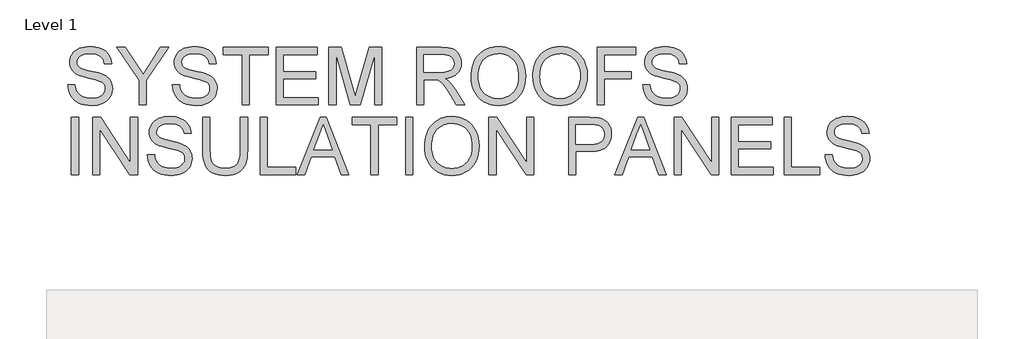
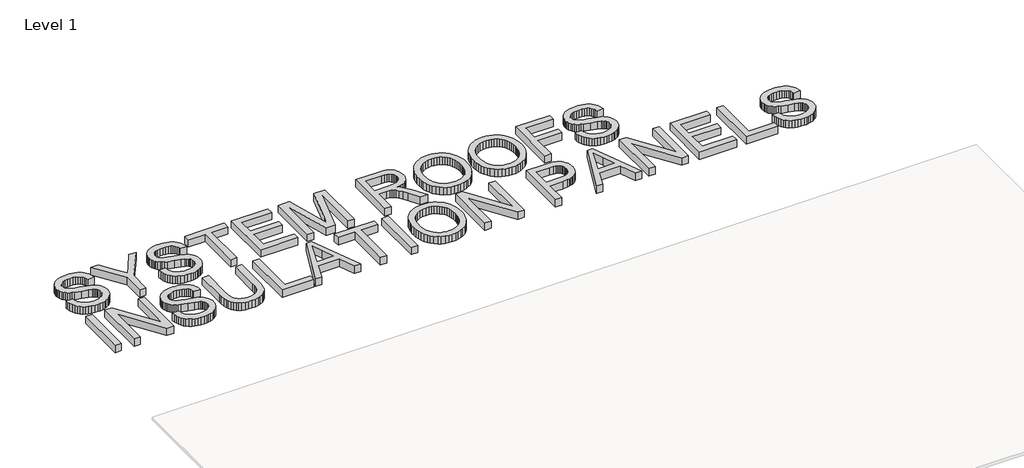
# One storey, part 22 of 27: 1 proxy.
"""IFC4 building model written with IfcOpenShell, lengths in millimetres."""

from ifc_helpers import new_model, si_unit, origin, origin_with_axes, place, context, project, spatial, polyline, outline, extrude, element, save

model = new_model("IFC4")

# Units and contexts
model_context = context("Model", 3, world=origin())
ifc_project = project(units=[si_unit("LENGTHUNIT", "METRE", prefix="MILLI")], contexts=[model_context])

# Site, building, storey
site = spatial("IfcSite", under=ifc_project)
building = spatial("IfcBuilding", under=site)
storey = spatial("IfcBuildingStorey", under=building, Name="Level 1", Elevation=0.0)

# Proxy
placement = place(None, origin())
element("IfcBuildingElementProxy", 1, Name="1000mm Arial", ObjectType="1000mm Arial", at=placement, inside=storey, context=model_context, shape_type="SweptSolid", body=[
    extrude(outline(polyline([(26521.9146034, -20660.7681426), (26644.3388458, -20660.7681426), (26649.9429829, -20696.4029822), (26658.3865494, -20728.7052283), (26669.6695454, -20757.6748808), (26683.7919708, -20783.3119399), (26701.4711552, -20806.1319861), (26723.4244282, -20826.6505999), (26749.6517897, -20844.8677815), (26780.1532397, -20860.7835308), (26813.8079509, -20873.7029348), (26849.4950958, -20882.9310805), (26887.2146744, -20888.467968), (26926.9666867, -20890.3135971), (26995.172771, -20884.7244044), (27026.0926633, -20877.7379135), (27054.8904556, -20867.9568263), (27080.8562908, -20855.7323353), (27103.2803112, -20841.4156331), (27122.1625171, -20825.0067197), (27137.5029083, -20806.5055952), (27149.3762067, -20786.7117831), (27157.8571341, -20766.4248069), (27162.9456906, -20745.6446666), (27164.6418761, -20724.3713622), (27159.5607918, -20683.393912), (27144.317539, -20647.9757657), (27131.4952734, -20632.2617653), (27113.3528136, -20617.7582586), (27089.8901597, -20604.4652454), (27061.1073117, -20592.3827259), (26996.4579864, -20573.1642718), (26882.8509197, -20545.6367505), (26765.8365376, -20514.7019139), (26723.1330131, -20499.7949092), (26690.9652663, -20485.2615138), (26658.2744667, -20465.7591167), (26630.0221436, -20444.0748424), (26606.2082971, -20420.2086906), (26586.8329272, -20394.1606615), (26571.8213121, -20366.1997536), (26561.0987298, -20336.5949655), (26554.6651804, -20305.3462971), (26552.520664, -20272.4537486), (26555.1732889, -20235.9969689), (26563.1311635, -20200.7506828), (26576.3942879, -20166.7148903), (26594.9626621, -20133.8895914), (26618.6270649, -20103.6123069), (26647.1782752, -20077.2205573), (26680.6162931, -20054.7143428), (26718.9411185, -20036.0936634), (26760.8600638, -20021.5004904), (26805.0804414, -20011.0767955), (26851.6022513, -20004.8225785), (26900.4254935, -20002.7378395), (26953.6872123, -20004.9197169), (27003.7209481, -20011.465349), (27050.5267009, -20022.3747358), (27094.1044708, -20037.6478774), (27133.647262, -20057.1502744), (27168.3480788, -20080.7474276), (27198.2069211, -20108.4393369), (27223.223789, -20140.2260024), (27243.2044057, -20175.1808734), (27257.9544945, -20212.3773992), (27267.4740553, -20251.8155798), (27271.7630882, -20293.4954153), (27149.3388458, -20293.4954153), (27141.1493335, -20254.4308438), (27126.86252, -20220.4473566), (27106.4784055, -20191.5449536), (27079.9969897, -20167.723635), (27046.9251088, -20149.1029555), (27006.7695986, -20135.8024702), (26959.5304592, -20127.822179), (26905.2076905, -20125.1620819), (26849.1513754, -20127.7922903), (26801.2546839, -20135.6829153), (26761.5176159, -20148.8339569), (26729.9401716, -20167.2454153), (26705.8797431, -20189.3780206), (26688.6937227, -20213.6925033), (26678.3821105, -20240.1888634), (26674.9449064, -20268.8671009), (26677.380838, -20293.5402484), (26684.6886327, -20315.9119636), (26696.8682906, -20335.9822465), (26713.9198117, -20353.7510971), (26740.7598922, -20370.5784527), (26783.0225579, -20387.5851407), (26840.7078089, -20404.771161), (26913.815645, -20422.1365138), (27048.7931545, -20454.9543405), (27096.2863482, -20469.7940954), (27130.4491678, -20483.5877448), (27167.9819418, -20504.4949122), (27200.2393548, -20528.0023992), (27227.2214068, -20554.1102058), (27248.9280977, -20582.8183319), (27265.6134818, -20613.9773341), (27277.5316133, -20647.4377685), (27284.6824922, -20683.1996352), (27287.0661185, -20721.2629342), (27284.3238274, -20759.5578709), (27276.0969542, -20796.7319801), (27262.3854989, -20832.785262), (27243.1894613, -20867.7177164), (27218.8450899, -20900.1768783), (27189.6886327, -20928.8102827), (27155.7200899, -20953.6179295), (27116.9394613, -20974.5998187), (27074.4750467, -20991.2852028), (27029.4551455, -21003.2033343), (26981.8797578, -21010.3542132), (26931.7488837, -21012.7378395), (26869.1245199, -21010.1674086), (26811.8054059, -21002.456116), (26759.7915417, -20989.6039617), (26713.0829272, -20971.6109456), (26671.3956196, -20948.447179), (26634.4456758, -20920.0827732), (26602.2330959, -20886.5177283), (26574.7578799, -20847.7520441), (26552.6252745, -20805.0410474), (26536.4405267, -20759.6400649), (26526.2036363, -20711.5490966), (26521.9146034, -20660.7681426)])), origin_with_axes(), (0.0, 0.0, 1.0), 150.0),
    extrude(outline(polyline([(27746.1570276, -20997.4348092), (27746.1570276, -20582.5792221), (27363.58127, -20018.0408698), (27508.0036185, -20018.0408698), (27712.2034291, -20319.5583888), (27816.6944329, -20473.3060213), (27921.4245466, -20308.5593357), (28106.7346791, -20018.0408698), (28251.1570276, -20018.0408698), (27868.58127, -20582.5792221), (27868.58127, -20997.4348092), (27746.1570276, -20997.4348092)])), origin_with_axes(), (0.0, 0.0, 1.0), 150.0),
    extrude(outline(polyline([(28312.3691488, -20660.7681426), (28434.7933913, -20660.7681426), (28440.3975283, -20696.4029822), (28448.8410948, -20728.7052283), (28460.1240908, -20757.6748808), (28474.2465163, -20783.3119399), (28491.9257007, -20806.1319861), (28513.8789736, -20826.6505999), (28540.1063351, -20844.8677815), (28570.6077852, -20860.7835308), (28604.2624964, -20873.7029348), (28639.9496413, -20882.9310805), (28677.6692198, -20888.467968), (28717.4212322, -20890.3135971), (28785.6273164, -20884.7244044), (28816.5472087, -20877.7379135), (28845.3450011, -20867.9568263), (28871.3108362, -20855.7323353), (28893.7348567, -20841.4156331), (28912.6170625, -20825.0067197), (28927.9574538, -20806.5055952), (28939.8307522, -20786.7117831), (28948.3116796, -20766.4248069), (28953.4002361, -20745.6446666), (28955.0964216, -20724.3713622), (28950.0153373, -20683.393912), (28934.7720844, -20647.9757657), (28921.9498188, -20632.2617653), (28903.8073591, -20617.7582586), (28880.3447052, -20604.4652454), (28851.5618572, -20592.3827259), (28786.9125319, -20573.1642718), (28673.3054651, -20545.6367505), (28556.291083, -20514.7019139), (28513.5875585, -20499.7949092), (28481.4198117, -20485.2615138), (28448.7290121, -20465.7591167), (28420.4766891, -20444.0748424), (28396.6628426, -20420.2086906), (28377.2874727, -20394.1606615), (28362.2758575, -20366.1997536), (28351.5532752, -20336.5949655), (28345.1197259, -20305.3462971), (28342.9752094, -20272.4537486), (28345.6278343, -20235.9969689), (28353.585709, -20200.7506828), (28366.8488334, -20166.7148903), (28385.4172075, -20133.8895914), (28409.0816104, -20103.6123069), (28437.6328207, -20077.2205573), (28471.0708386, -20054.7143428), (28509.395664, -20036.0936634), (28551.3146093, -20021.5004904), (28595.5349869, -20011.0767955), (28642.0567968, -20004.8225785), (28690.880039, -20002.7378395), (28744.1417577, -20004.9197169), (28794.1754935, -20011.465349), (28840.9812464, -20022.3747358), (28884.5590163, -20037.6478774), (28924.1018074, -20057.1502744), (28958.8026242, -20080.7474276), (28988.6614665, -20108.4393369), (29013.6783344, -20140.2260024), (29033.6589511, -20175.1808734), (29048.4090399, -20212.3773992), (29057.9286008, -20251.8155798), (29062.2176337, -20293.4954153), (28939.7933913, -20293.4954153), (28931.6038789, -20254.4308438), (28917.3170655, -20220.4473566), (28896.9329509, -20191.5449536), (28870.4515352, -20167.723635), (28837.3796543, -20149.1029555), (28797.2241441, -20135.8024702), (28749.9850047, -20127.822179), (28695.6622359, -20125.1620819), (28639.6059208, -20127.7922903), (28591.7092293, -20135.6829153), (28551.9721614, -20148.8339569), (28520.394717, -20167.2454153), (28496.3342885, -20189.3780206), (28479.1482681, -20213.6925033), (28468.8366559, -20240.1888634), (28465.3994519, -20268.8671009), (28467.8353834, -20293.5402484), (28475.1431782, -20315.9119636), (28487.3228361, -20335.9822465), (28504.3743572, -20353.7510971), (28531.2144377, -20370.5784527), (28573.4771034, -20387.5851407), (28631.1623543, -20404.771161), (28704.2701905, -20422.1365138), (28839.2477, -20454.9543405), (28886.7408936, -20469.7940954), (28920.9037132, -20483.5877448), (28958.4364873, -20504.4949122), (28990.6939002, -20528.0023992), (29017.6759522, -20554.1102058), (29039.3826431, -20582.8183319), (29056.0680273, -20613.9773341), (29067.9861588, -20647.4377685), (29075.1370377, -20683.1996352), (29077.520664, -20721.2629342), (29074.7783729, -20759.5578709), (29066.5514997, -20796.7319801), (29052.8400443, -20832.785262), (29033.6440068, -20867.7177164), (29009.2996353, -20900.1768783), (28980.1431782, -20928.8102827), (28946.1746353, -20953.6179295), (28907.3940068, -20974.5998187), (28864.9295921, -20991.2852028), (28819.909691, -21003.2033343), (28772.3343033, -21010.3542132), (28722.2034291, -21012.7378395), (28659.5790654, -21010.1674086), (28602.2599514, -21002.456116), (28550.2460872, -20989.6039617), (28503.5374727, -20971.6109456), (28461.850165, -20948.447179), (28424.9002213, -20920.0827732), (28392.6876414, -20886.5177283), (28365.2124253, -20847.7520441), (28343.07982, -20805.0410474), (28326.8950721, -20759.6400649), (28316.6581817, -20711.5490966), (28312.3691488, -20660.7681426)])), origin_with_axes(), (0.0, 0.0, 1.0), 150.0),
    extrude(outline(polyline([(29506.0055125, -20997.4348092), (29506.0055125, -20140.4651122), (29184.6418761, -20140.4651122), (29184.6418761, -20018.0408698), (29949.7933913, -20018.0408698), (29949.7933913, -20140.4651122), (29628.4297549, -20140.4651122), (29628.4297549, -20997.4348092), (29506.0055125, -20997.4348092)])), origin_with_axes(), (0.0, 0.0, 1.0), 150.0),
    extrude(outline(polyline([(30087.520664, -20997.4348092), (30087.520664, -20018.0408698), (30791.4600579, -20018.0408698), (30791.4600579, -20140.4651122), (30209.9449064, -20140.4651122), (30209.9449064, -20431.222688), (30760.8539973, -20431.222688), (30760.8539973, -20553.6469304), (30209.9449064, -20553.6469304), (30209.9449064, -20875.0105668), (30806.7630882, -20875.0105668), (30806.7630882, -20997.4348092), (30087.520664, -20997.4348092)])), origin_with_axes(), (0.0, 0.0, 1.0), 150.0),
    extrude(outline(polyline([(30990.3994519, -20997.4348092), (30990.3994519, -20018.0408698), (31201.0552284, -20018.0408698), (31401.4292814, -20708.3510024), (31441.8388458, -20852.534241), (31485.5959481, -20696.39551), (31682.6224632, -20018.0408698), (31893.2782397, -20018.0408698), (31893.2782397, -20997.4348092), (31770.8539973, -20997.4348092), (31770.8539973, -20140.4651122), (31524.8099632, -20997.4348092), (31358.8677284, -20997.4348092), (31112.8236943, -20140.4651122), (31112.8236943, -20997.4348092), (30990.3994519, -20997.4348092)])), origin_with_axes(), (0.0, 0.0, 1.0), 150.0),
    extrude(outline(polyline([(32490.0964216, -20997.4348092), (32490.0964216, -20018.0408698), (32912.1253041, -20018.0408698), (32972.7022898, -20019.6922222), (33025.5530385, -20024.6462794), (33070.6775502, -20032.9030413), (33108.075825, -20044.4625081), (33139.9222679, -20060.2138694), (33168.3912842, -20081.0463149), (33193.482874, -20106.9598447), (33215.1970371, -20137.9544588), (33232.7193057, -20172.3638605), (33245.2352118, -20208.5217529), (33252.7447555, -20246.428136), (33255.2479367, -20286.08301), (33251.1008753, -20336.3857444), (33238.659691, -20382.5638338), (33217.9243838, -20424.6172784), (33188.8949538, -20462.5460782), (33151.1977917, -20495.1397394), (33104.4592885, -20521.1877685), (33048.6794442, -20540.6901655), (32983.8582587, -20553.6469304), (33024.2080456, -20580.0087912), (33053.4392246, -20606.0119872), (33103.5925153, -20665.4905621), (33152.6698117, -20732.0228774), (33315.9818382, -20997.4348092), (33173.7114784, -20997.4348092), (33046.2659291, -20794.4305479), (32995.2757539, -20716.9589569), (32954.2086375, -20660.050813), (32919.9860404, -20620.8666866), (32889.5294234, -20596.5671482), (32860.686798, -20582.3102235), (32831.3061753, -20573.253938), (32760.2905503, -20568.9499607), (32612.520664, -20568.9499607), (32612.520664, -20997.4348092), (32490.0964216, -20997.4348092)]), holes=[polyline([(32612.520664, -20446.5257183), (32886.5405503, -20446.5257183), (32965.2375792, -20442.1918523), (33026.3002568, -20429.1902543), (33050.8538493, -20419.2223625), (33072.2691252, -20406.6541511), (33090.5460842, -20391.4856201), (33105.6847265, -20373.7167694), (33117.5580249, -20354.2218446), (33126.0389523, -20333.8750909), (33131.1275088, -20312.6765084), (33132.8236943, -20290.6260971), (33129.5882391, -20259.3176513), (33119.8818737, -20230.9084124), (33103.704598, -20205.3983805), (33081.0564121, -20182.7875554), (33051.4142631, -20164.2714865), (33014.2550982, -20151.045723), (32969.5789174, -20143.1102649), (32917.3857208, -20140.4651122), (32612.520664, -20140.4651122), (32612.520664, -20446.5257183)])]), origin_with_axes(), (0.0, 0.0, 1.0), 150.0),
    extrude(outline(polyline([(33423.58127, -20520.6497713), (33425.6211759, -20461.5634861), (33431.7408936, -20405.7724335), (33441.9404231, -20353.2766135), (33456.2197644, -20304.0760261), (33474.5789174, -20258.1706713), (33497.0178823, -20215.560549), (33523.5366589, -20176.2456594), (33554.1352473, -20140.2260024), (33587.9580826, -20108.0022142), (33624.1495998, -20080.0749311), (33662.709799, -20056.4441531), (33703.6386801, -20037.1098802), (33746.9362431, -20022.0721124), (33792.6024881, -20011.3308497), (33840.637415, -20004.8860921), (33891.0410238, -20002.7378395), (33956.9307315, -20006.7728182), (34019.5027899, -20018.8777543), (34078.7571993, -20039.0526478), (34134.6939594, -20067.2974986), (34185.7439121, -20102.760478), (34230.3378988, -20144.5897571), (34268.4759197, -20192.785336), (34300.1579746, -20247.3472145), (34325.0552876, -20307.0350104), (34342.8390825, -20370.6083414), (34353.5093595, -20438.0672074), (34357.0661185, -20509.4116085), (34353.322555, -20581.6975045), (34342.0918643, -20650.0679768), (34323.3740464, -20714.5230254), (34297.1691015, -20775.0626501), (34264.0972206, -20830.087804), (34224.7785948, -20877.9994399), (34179.2132243, -20918.7975578), (34127.4011091, -20952.4821577), (34071.3821549, -20978.8440185), (34013.1962677, -20997.6739191), (33952.8434475, -21008.9718594), (33890.3236943, -21012.7378395), (33823.2832705, -21008.5758337), (33759.8892719, -20996.0898163), (33700.1416985, -20975.2797873), (33644.0405503, -20946.1457467), (33593.0503752, -20909.8159941), (33548.6357208, -20867.4188291), (33510.7965873, -20818.9542517), (33479.5329746, -20764.4222619), (33455.0541038, -20706.0122092), (33437.5691962, -20645.9134432), (33427.0782516, -20584.1259639), (33423.58127, -20520.6497713)]), holes=[polyline([(33546.0055125, -20521.8453206), (33547.5354419, -20563.5662531), (33552.1252301, -20603.0081698), (33559.7748773, -20640.1710708), (33570.4843832, -20675.054956), (33584.253748, -20707.6598255), (33601.0829716, -20737.9856792), (33620.9720541, -20766.0325173), (33643.9209954, -20791.8003395), (33669.1788412, -20814.8893843), (33695.9946371, -20834.8998897), (33724.3683831, -20851.8318559), (33754.3000792, -20865.6852827), (33785.7897254, -20876.4601703), (33818.8373218, -20884.1565185), (33853.4428682, -20888.7743274), (33889.6063647, -20890.3135971), (33926.4311494, -20888.7593831), (33961.5859013, -20884.096741), (33995.0706203, -20876.325671), (34026.8853065, -20865.4461729), (34057.0299598, -20851.4582467), (34085.5045803, -20834.3618926), (34112.3091679, -20814.1571104), (34137.4437227, -20790.8439001), (34160.2245399, -20764.67258), (34179.9679148, -20735.8934681), (34196.6738474, -20704.5065644), (34210.3423377, -20670.5118689), (34220.9733858, -20633.9093816), (34228.5669915, -20594.6991025), (34233.123155, -20552.8810317), (34234.6418761, -20508.4551691), (34232.0415565, -20452.4287427), (34224.2405977, -20400.0786302), (34211.2389997, -20351.4048317), (34193.0367625, -20306.4073471), (34169.835635, -20265.6764788), (34141.8373662, -20229.8025294), (34109.041956, -20198.7854987), (34071.4494045, -20172.6253869), (34030.2253722, -20151.860191), (33986.5355196, -20137.0279082), (33940.3798466, -20128.1285385), (33891.7583534, -20125.1620819), (33823.4476585, -20130.8783018), (33760.0686043, -20148.0269612), (33701.6211907, -20176.6080603), (33648.1054178, -20216.621599), (33624.1757525, -20241.397489), (33603.4367092, -20269.9954005), (33585.888288, -20302.4153335), (33571.5304888, -20338.6572879), (33560.3633116, -20378.7212639), (33552.3867565, -20422.6072613), (33547.6008235, -20470.3152802), (33546.0055125, -20521.8453206)])]), origin_with_axes(), (0.0, 0.0, 1.0), 150.0),
    extrude(outline(polyline([(34479.4903609, -20520.6497713), (34481.5302668, -20461.5634861), (34487.6499845, -20405.7724335), (34497.849514, -20353.2766135), (34512.1288553, -20304.0760261), (34530.4880083, -20258.1706713), (34552.9269732, -20215.560549), (34579.4457498, -20176.2456594), (34610.0443382, -20140.2260024), (34643.8671735, -20108.0022142), (34680.0586907, -20080.0749311), (34718.6188899, -20056.4441531), (34759.547771, -20037.1098802), (34802.845334, -20022.0721124), (34848.511579, -20011.3308497), (34896.5465059, -20004.8860921), (34946.9501147, -20002.7378395), (35012.8398224, -20006.7728182), (35075.4118808, -20018.8777543), (35134.6662902, -20039.0526478), (35190.6030503, -20067.2974986), (35241.653003, -20102.760478), (35286.2469897, -20144.5897571), (35324.3850106, -20192.785336), (35356.0670655, -20247.3472145), (35380.9643785, -20307.0350104), (35398.7481734, -20370.6083414), (35409.4184504, -20438.0672074), (35412.9752094, -20509.4116085), (35409.2316459, -20581.6975045), (35398.0009552, -20650.0679768), (35379.2831373, -20714.5230254), (35353.0781924, -20775.0626501), (35320.0063115, -20830.087804), (35280.6876858, -20877.9994399), (35235.1223153, -20918.7975578), (35183.3102, -20952.4821577), (35127.2912458, -20978.8440185), (35069.1053586, -20997.6739191), (35008.7525384, -21008.9718594), (34946.2327852, -21012.7378395), (34879.1923614, -21008.5758337), (34815.7983628, -20996.0898163), (34756.0507895, -20975.2797873), (34699.9496413, -20946.1457467), (34648.9594661, -20909.8159941), (34604.5448117, -20867.4188291), (34566.7056782, -20818.9542517), (34535.4420655, -20764.4222619), (34510.9631948, -20706.0122092), (34493.4782871, -20645.9134432), (34482.9873425, -20584.1259639), (34479.4903609, -20520.6497713)]), holes=[polyline([(34601.9146034, -20521.8453206), (34603.4445328, -20563.5662531), (34608.0343211, -20603.0081698), (34615.6839682, -20640.1710708), (34626.3934741, -20675.054956), (34640.1628389, -20707.6598255), (34656.9920625, -20737.9856792), (34676.881145, -20766.0325173), (34699.8300863, -20791.8003395), (34725.0879321, -20814.8893843), (34751.903728, -20834.8998897), (34780.277474, -20851.8318559), (34810.2091701, -20865.6852827), (34841.6988164, -20876.4601703), (34874.7464127, -20884.1565185), (34909.3519591, -20888.7743274), (34945.5154556, -20890.3135971), (34982.3402404, -20888.7593831), (35017.4949922, -20884.096741), (35050.9797112, -20876.325671), (35082.7943974, -20865.4461729), (35112.9390507, -20851.4582467), (35141.4136712, -20834.3618926), (35168.2182588, -20814.1571104), (35193.3528136, -20790.8439001), (35216.1336308, -20764.67258), (35235.8770057, -20735.8934681), (35252.5829383, -20704.5065644), (35266.2514287, -20670.5118689), (35276.8824767, -20633.9093816), (35284.4760824, -20594.6991025), (35289.0322459, -20552.8810317), (35290.550967, -20508.4551691), (35287.9506474, -20452.4287427), (35280.1496886, -20400.0786302), (35267.1480906, -20351.4048317), (35248.9458534, -20306.4073471), (35225.7447259, -20265.6764788), (35197.7464571, -20229.8025294), (35164.9510469, -20198.7854987), (35127.3584954, -20172.6253869), (35086.1344631, -20151.860191), (35042.4446105, -20137.0279082), (34996.2889375, -20128.1285385), (34947.6674443, -20125.1620819), (34879.3567494, -20130.8783018), (34815.9776952, -20148.0269612), (34757.5302816, -20176.6080603), (34704.0145087, -20216.621599), (34680.0848434, -20241.397489), (34659.3458001, -20269.9954005), (34641.7973789, -20302.4153335), (34627.4395797, -20338.6572879), (34616.2724026, -20378.7212639), (34608.2958475, -20422.6072613), (34603.5099144, -20470.3152802), (34601.9146034, -20521.8453206)])]), origin_with_axes(), (0.0, 0.0, 1.0), 150.0),
    extrude(outline(polyline([(35581.3085428, -20997.4348092), (35581.3085428, -20018.0408698), (36239.3388458, -20018.0408698), (36239.3388458, -20140.4651122), (35703.7327852, -20140.4651122), (35703.7327852, -20431.222688), (36162.8236943, -20431.222688), (36162.8236943, -20553.6469304), (35703.7327852, -20553.6469304), (35703.7327852, -20997.4348092), (35581.3085428, -20997.4348092)])), origin_with_axes(), (0.0, 0.0, 1.0), 150.0),
    extrude(outline(polyline([(36361.7630882, -20660.7681426), (36484.1873306, -20660.7681426), (36489.7914677, -20696.4029822), (36498.2350342, -20728.7052283), (36509.5180302, -20757.6748808), (36523.6404556, -20783.3119399), (36541.3196401, -20806.1319861), (36563.272913, -20826.6505999), (36589.5002745, -20844.8677815), (36620.0017246, -20860.7835308), (36653.6564358, -20873.7029348), (36689.3435806, -20882.9310805), (36727.0631592, -20888.467968), (36766.8151716, -20890.3135971), (36835.0212558, -20884.7244044), (36865.9411481, -20877.7379135), (36894.7389405, -20867.9568263), (36920.7047756, -20855.7323353), (36943.1287961, -20841.4156331), (36962.0110019, -20825.0067197), (36977.3513931, -20806.5055952), (36989.2246916, -20786.7117831), (36997.705619, -20766.4248069), (37002.7941755, -20745.6446666), (37004.4903609, -20724.3713622), (36999.4092767, -20683.393912), (36984.1660238, -20647.9757657), (36971.3437582, -20632.2617653), (36953.2012984, -20617.7582586), (36929.7386446, -20604.4652454), (36900.9557966, -20592.3827259), (36836.3064713, -20573.1642718), (36722.6994045, -20545.6367505), (36605.6850224, -20514.7019139), (36562.9814979, -20499.7949092), (36530.8137511, -20485.2615138), (36498.1229515, -20465.7591167), (36469.8706285, -20444.0748424), (36446.056782, -20420.2086906), (36426.6814121, -20394.1606615), (36411.6697969, -20366.1997536), (36400.9472146, -20336.5949655), (36394.5136653, -20305.3462971), (36392.3691488, -20272.4537486), (36395.0217737, -20235.9969689), (36402.9796484, -20200.7506828), (36416.2427728, -20166.7148903), (36434.8111469, -20133.8895914), (36458.4755498, -20103.6123069), (36487.0267601, -20077.2205573), (36520.464778, -20054.7143428), (36558.7896034, -20036.0936634), (36600.7085487, -20021.5004904), (36644.9289263, -20011.0767955), (36691.4507362, -20004.8225785), (36740.2739784, -20002.7378395), (36793.5356971, -20004.9197169), (36843.5694329, -20011.465349), (36890.3751858, -20022.3747358), (36933.9529556, -20037.6478774), (36973.4957468, -20057.1502744), (37008.1965636, -20080.7474276), (37038.0554059, -20108.4393369), (37063.0722738, -20140.2260024), (37083.0528905, -20175.1808734), (37097.8029793, -20212.3773992), (37107.3225402, -20251.8155798), (37111.6115731, -20293.4954153), (36989.1873306, -20293.4954153), (36980.9978183, -20254.4308438), (36966.7110049, -20220.4473566), (36946.3268903, -20191.5449536), (36919.8454746, -20167.723635), (36886.7735937, -20149.1029555), (36846.6180835, -20135.8024702), (36799.378944, -20127.822179), (36745.0561753, -20125.1620819), (36688.9998602, -20127.7922903), (36641.1031687, -20135.6829153), (36601.3661008, -20148.8339569), (36569.7886564, -20167.2454153), (36545.7282279, -20189.3780206), (36528.5422075, -20213.6925033), (36518.2305953, -20240.1888634), (36514.7933913, -20268.8671009), (36517.2293228, -20293.5402484), (36524.5371176, -20315.9119636), (36536.7167755, -20335.9822465), (36553.7682966, -20353.7510971), (36580.608377, -20370.5784527), (36622.8710428, -20387.5851407), (36680.5562937, -20404.771161), (36753.6641299, -20422.1365138), (36888.6416394, -20454.9543405), (36936.134833, -20469.7940954), (36970.2976526, -20483.5877448), (37007.8304266, -20504.4949122), (37040.0878396, -20528.0023992), (37067.0698916, -20554.1102058), (37088.7765825, -20582.8183319), (37105.4619667, -20613.9773341), (37117.3800982, -20647.4377685), (37124.5309771, -20683.1996352), (37126.9146034, -20721.2629342), (37124.1723123, -20759.5578709), (37115.9454391, -20796.7319801), (37102.2339837, -20832.785262), (37083.0379462, -20867.7177164), (37058.6935747, -20900.1768783), (37029.5371176, -20928.8102827), (36995.5685747, -20953.6179295), (36956.7879462, -20974.5998187), (36914.3235315, -20991.2852028), (36869.3036304, -21003.2033343), (36821.7282427, -21010.3542132), (36771.5973685, -21012.7378395), (36708.9730048, -21010.1674086), (36651.6538908, -21002.456116), (36599.6400265, -20989.6039617), (36552.9314121, -20971.6109456), (36511.2441044, -20948.447179), (36474.2941607, -20920.0827732), (36442.0815808, -20886.5177283), (36414.6063647, -20847.7520441), (36392.4737594, -20805.0410474), (36376.2890115, -20759.6400649), (36366.0521211, -20711.5490966), (36361.7630882, -20660.7681426)])), origin_with_axes(), (0.0, 0.0, 1.0), 150.0),
    extrude(outline(polyline([(26583.1267246, -22194.4045062), (26583.1267246, -21215.0105668), (26705.550967, -21215.0105668), (26705.550967, -22194.4045062), (26583.1267246, -22194.4045062)])), origin_with_axes(), (0.0, 0.0, 1.0), 150.0),
    extrude(outline(polyline([(26950.3994519, -22194.4045062), (26950.3994519, -21215.0105668), (27081.4316488, -21215.0105668), (27593.1267246, -21990.9220251), (27593.1267246, -21215.0105668), (27715.550967, -21215.0105668), (27715.550967, -22194.4045062), (27584.51877, -22194.4045062), (27072.8236943, -21418.253938), (27072.8236943, -22194.4045062), (26950.3994519, -22194.4045062)])), origin_with_axes(), (0.0, 0.0, 1.0), 150.0),
    extrude(outline(polyline([(27883.8843003, -21857.7378395), (28006.3085428, -21857.7378395), (28011.9126798, -21893.3726791), (28020.3562464, -21925.6749252), (28031.6392423, -21954.6445778), (28045.7616678, -21980.2816369), (28063.4408522, -22003.101683), (28085.3941252, -22023.6202969), (28111.6214867, -22041.8374785), (28142.1229367, -22057.7532278), (28175.7776479, -22070.6726318), (28211.4647928, -22079.9007775), (28249.1843714, -22085.4376649), (28288.9363837, -22087.2832941), (28357.142468, -22081.6941014), (28388.0623602, -22074.7076105), (28416.8601526, -22064.9265232), (28442.8259877, -22052.7020322), (28465.2500082, -22038.3853301), (28484.132214, -22021.9764167), (28499.4726053, -22003.4752922), (28511.3459037, -21983.68148), (28519.8268311, -21963.3945038), (28524.9153876, -21942.6143636), (28526.6115731, -21921.3410592), (28521.5304888, -21880.3636089), (28506.2872359, -21844.9454626), (28493.4649703, -21829.2314623), (28475.3225106, -21814.7279555), (28451.8598567, -21801.4349424), (28423.0770087, -21789.3524229), (28358.4276834, -21770.1339688), (28244.8206166, -21742.6064475), (28127.8062345, -21711.6716108), (28085.10271, -21696.7646062), (28052.9349632, -21682.2312107), (28020.2441636, -21662.7288137), (27991.9918406, -21641.0445393), (27968.1779941, -21617.1783876), (27948.8026242, -21591.1303585), (27933.791009, -21563.1694506), (27923.0684268, -21533.5646624), (27916.6348774, -21502.3159941), (27914.4903609, -21469.4234456), (27917.1429858, -21432.9666659), (27925.1008605, -21397.7203798), (27938.3639849, -21363.6845873), (27956.9323591, -21330.8592884), (27980.5967619, -21300.5820038), (28009.1479722, -21274.1902543), (28042.5859901, -21251.6840398), (28080.9108155, -21233.0633604), (28122.8297608, -21218.4701874), (28167.0501384, -21208.0464925), (28213.5719483, -21201.7922755), (28262.3951905, -21199.7075365), (28315.6569092, -21201.8894139), (28365.690645, -21208.435046), (28412.4963979, -21219.3444328), (28456.0741678, -21234.6175744), (28495.616959, -21254.1199714), (28530.3177757, -21277.7171246), (28560.1766181, -21305.4090339), (28585.1934859, -21337.1956994), (28605.1741027, -21372.1505703), (28619.9241914, -21409.3470961), (28629.4437523, -21448.7852768), (28633.7327852, -21490.4651122), (28511.3085428, -21490.4651122), (28503.1190305, -21451.4005408), (28488.832217, -21417.4170535), (28468.4481024, -21388.5146506), (28441.9666867, -21364.6933319), (28408.8948058, -21346.0726525), (28368.7392956, -21332.7721672), (28321.5001562, -21324.791876), (28267.1773875, -21322.1317789), (28211.1210724, -21324.7619872), (28163.2243808, -21332.6526122), (28123.4873129, -21345.8036539), (28091.9098685, -21364.2151122), (28067.84944, -21386.3477176), (28050.6634197, -21410.6622003), (28040.3518074, -21437.1585604), (28036.9146034, -21465.8367979), (28039.350535, -21490.5099453), (28046.6583297, -21512.8816605), (28058.8379876, -21532.9519435), (28075.8895087, -21550.7207941), (28102.7295892, -21567.5481497), (28144.9922549, -21584.5548376), (28202.6775058, -21601.740858), (28275.785342, -21619.1062107), (28410.7628515, -21651.9240374), (28458.2560451, -21666.7637924), (28492.4188647, -21680.5574418), (28529.9516388, -21701.4646092), (28562.2090518, -21724.9720961), (28589.1911037, -21751.0799027), (28610.8977947, -21779.7880289), (28627.5831788, -21810.947031), (28639.5013103, -21844.4074655), (28646.6521892, -21880.1693322), (28649.0358155, -21918.2326312), (28646.2935244, -21956.5275679), (28638.0666512, -21993.7016771), (28624.3551958, -22029.754959), (28605.1591583, -22064.6874134), (28580.8147868, -22097.1465753), (28551.6583297, -22125.7799797), (28517.6897868, -22150.5876265), (28478.9091583, -22171.5695157), (28436.4447436, -22188.2548998), (28391.4248425, -22200.1730313), (28343.8494548, -22207.3239102), (28293.7185806, -22209.7075365), (28231.0942169, -22207.1371056), (28173.7751029, -22199.425813), (28121.7612387, -22186.5736586), (28075.0526242, -22168.5806426), (28033.3653166, -22145.416876), (27996.4153728, -22117.0524702), (27964.2027929, -22083.4874252), (27936.7275769, -22044.721741), (27914.5949715, -22002.0107444), (27898.4102236, -21956.6097619), (27888.1733332, -21908.5187936), (27883.8843003, -21857.7378395)])), origin_with_axes(), (0.0, 0.0, 1.0), 150.0),
    extrude(outline(polyline([(29475.3994519, -21215.0105668), (29597.8236943, -21215.0105668), (29597.8236943, -21780.0271388), (29595.7464275, -21849.989186), (29589.514627, -21912.3445512), (29579.128293, -21967.0932343), (29564.5874253, -22014.2352354), (29544.6366974, -22055.556406), (29518.0207823, -22092.842598), (29484.7396803, -22126.0938113), (29444.7933913, -22155.310046), (29398.1370821, -22179.1089481), (29344.7259197, -22196.1081639), (29284.559904, -22206.3076933), (29217.6390352, -22209.7075365), (29152.3695187, -22206.7485521), (29093.3318027, -22197.871599), (29040.5258871, -22183.0766771), (28993.9517719, -22162.3637865), (28953.601985, -22136.0392866), (28919.4690541, -22104.409537), (28891.5529793, -22067.4745376), (28869.8537606, -22025.2342884), (28853.5868187, -21976.239186), (28841.9675745, -21919.0396269), (28834.996028, -21853.6356112), (28832.6721791, -21780.0271388), (28832.6721791, -21215.0105668), (28955.0964216, -21215.0105668), (28955.0964216, -21775.7231615), (28956.6058025, -21834.9103212), (28961.1339452, -21885.7435805), (28968.6808498, -21928.2229395), (28979.2465163, -21962.3483982), (28993.4884966, -21990.5857769), (29012.064343, -22015.4008959), (29034.9740553, -22036.7937551), (29062.2176337, -22054.7643547), (29093.2720252, -22068.9913907), (29127.6141772, -22079.1535592), (29165.2440896, -22085.2508604), (29206.1617625, -22087.2832941), (29273.6355728, -22083.2632597), (29330.6782161, -22071.2031568), (29377.2896922, -22051.1029851), (29396.6837425, -22038.0378736), (29413.4700011, -22022.9627448), (29427.9847161, -22005.0295062), (29440.5641358, -21983.3900649), (29459.9170892, -21928.9925744), (29471.5288612, -21859.7702732), (29475.3994519, -21775.7231615), (29475.3994519, -21215.0105668)])), origin_with_axes(), (0.0, 0.0, 1.0), 150.0),
    extrude(outline(polyline([(29812.0661185, -22194.4045062), (29812.0661185, -21215.0105668), (29934.4903609, -21215.0105668), (29934.4903609, -22071.9802638), (30424.1873306, -22071.9802638), (30424.1873306, -22194.4045062), (29812.0661185, -22194.4045062)])), origin_with_axes(), (0.0, 0.0, 1.0), 150.0),
    extrude(outline(polyline([(30447.8592056, -22194.4045062), (30838.8038079, -21215.0105668), (30943.0557019, -21215.0105668), (31334.0003041, -22194.4045062), (31204.6418761, -22194.4045062), (31092.4993572, -21888.3439001), (30689.1210428, -21888.3439001), (30577.2176337, -22194.4045062), (30447.8592056, -22194.4045062)]), holes=[polyline([(30734.0736943, -21765.9196577), (31047.7858155, -21765.9196577), (30959.5542814, -21525.1360403), (30890.9297549, -21337.4348092), (30829.9567435, -21504.0943736), (30734.0736943, -21765.9196577)])]), origin_with_axes(), (0.0, 0.0, 1.0), 150.0),
    extrude(outline(polyline([(31709.6418761, -22194.4045062), (31709.6418761, -21337.4348092), (31388.2782397, -21337.4348092), (31388.2782397, -21215.0105668), (32153.4297549, -21215.0105668), (32153.4297549, -21337.4348092), (31832.0661185, -21337.4348092), (31832.0661185, -22194.4045062), (31709.6418761, -22194.4045062)])), origin_with_axes(), (0.0, 0.0, 1.0), 150.0),
    extrude(outline(polyline([(32306.4600579, -22194.4045062), (32306.4600579, -21215.0105668), (32428.8843003, -21215.0105668), (32428.8843003, -22194.4045062), (32306.4600579, -22194.4045062)])), origin_with_axes(), (0.0, 0.0, 1.0), 150.0),
    extrude(outline(polyline([(32627.8236943, -21717.6194683), (32629.8636002, -21658.5331831), (32635.9833179, -21602.7421305), (32646.1828473, -21550.2463105), (32660.4621886, -21501.045723), (32678.8213417, -21455.1403682), (32701.2603065, -21412.530246), (32727.7790831, -21373.2153564), (32758.3776716, -21337.1956994), (32792.2005068, -21304.9719112), (32828.3920241, -21277.0446281), (32866.9522232, -21253.4138501), (32907.8811043, -21234.0795772), (32951.1786674, -21219.0418094), (32996.8449123, -21208.3005467), (33044.8798392, -21201.855789), (33095.2834481, -21199.7075365), (33161.1731557, -21203.7425152), (33223.7452142, -21215.8474513), (33282.9996235, -21236.0223447), (33338.9363837, -21264.2671956), (33389.9863363, -21299.730175), (33434.5803231, -21341.5594541), (33472.7183439, -21389.7550329), (33504.4003988, -21444.3169115), (33529.2977118, -21504.0047074), (33547.0815068, -21567.5780384), (33557.7517838, -21635.0369044), (33561.3085428, -21706.3813054), (33557.5649792, -21778.6672015), (33546.3342885, -21847.0376738), (33527.6164707, -21911.4927223), (33501.4115257, -21972.0323471), (33468.3396448, -22027.057501), (33429.0210191, -22074.9691369), (33383.4556486, -22115.7672548), (33331.6435333, -22149.4518547), (33275.6245791, -22175.8137155), (33217.4386919, -22194.643616), (33157.0858717, -22205.9415564), (33094.5661185, -22209.7075365), (33027.5256948, -22205.5455307), (32964.1316962, -22193.0595133), (32904.3841228, -22172.2494843), (32848.2829746, -22143.1154437), (32797.2927994, -22106.7856911), (32752.878145, -22064.3885261), (32715.0390115, -22015.9239487), (32683.7753988, -21961.3919588), (32659.2965281, -21902.9819062), (32641.8116204, -21842.8831402), (32631.3206758, -21781.0956609), (32627.8236943, -21717.6194683)]), holes=[polyline([(32750.2479367, -21718.8150176), (32751.7778661, -21760.53595), (32756.3676544, -21799.9778667), (32764.0173015, -21837.1407677), (32774.7268074, -21872.024653), (32788.4961722, -21904.6295225), (32805.3253959, -21934.9553762), (32825.2144783, -21963.0022142), (32848.1634197, -21988.7700365), (32873.4212655, -22011.8590812), (32900.2370614, -22031.8695867), (32928.6108074, -22048.8015528), (32958.5425035, -22062.6549797), (32990.0321497, -22073.4298672), (33023.079746, -22081.1262155), (33057.6852924, -22085.7440244), (33093.848789, -22087.2832941), (33130.6735737, -22085.7290801), (33165.8283256, -22081.066438), (33199.3130446, -22073.2953679), (33231.1277307, -22062.4158698), (33261.2723841, -22048.4279437), (33289.7470045, -22031.3315895), (33316.5515922, -22011.1268073), (33341.6861469, -21987.8135971), (33364.4669641, -21961.642277), (33384.210339, -21932.863165), (33400.9162717, -21901.4762613), (33414.584762, -21867.4815658), (33425.21581, -21830.8790786), (33432.8094158, -21791.6687995), (33437.3655792, -21749.8507287), (33438.8843003, -21705.424866), (33436.2839807, -21649.3984397), (33428.4830219, -21597.0483272), (33415.4814239, -21548.3745287), (33397.2791867, -21503.3770441), (33374.0780592, -21462.6461758), (33346.0797904, -21426.7722264), (33313.2843802, -21395.7551957), (33275.6918288, -21369.5950838), (33234.4677964, -21348.8298879), (33190.7779438, -21333.9976051), (33144.6222709, -21325.0982355), (33096.0007776, -21322.1317789), (33027.6900828, -21327.8479987), (32964.3110286, -21344.9966582), (32905.863615, -21373.5777573), (32852.347842, -21413.591296), (32828.4181767, -21438.367186), (32807.6791334, -21466.9650975), (32790.1307122, -21499.3850304), (32775.772913, -21535.6269849), (32764.6057359, -21575.6909608), (32756.6291808, -21619.5769582), (32751.8432477, -21667.2849772), (32750.2479367, -21718.8150176)])]), origin_with_axes(), (0.0, 0.0, 1.0), 150.0),
    extrude(outline(polyline([(33729.6418761, -22194.4045062), (33729.6418761, -21215.0105668), (33860.6740731, -21215.0105668), (34372.3691488, -21990.9220251), (34372.3691488, -21215.0105668), (34494.7933913, -21215.0105668), (34494.7933913, -22194.4045062), (34363.7611943, -22194.4045062), (33852.0661185, -21418.253938), (33852.0661185, -22194.4045062), (33729.6418761, -22194.4045062)])), origin_with_axes(), (0.0, 0.0, 1.0), 150.0),
    extrude(outline(polyline([(35091.6115731, -22194.4045062), (35091.6115731, -21215.0105668), (35454.5803231, -21215.0105668), (35539.1056545, -21217.3418878), (35600.9155503, -21224.3358509), (35634.9812316, -21231.6810065), (35666.1626502, -21241.7609811), (35694.4598064, -21254.5757745), (35719.8727, -21270.1253869), (35742.6703296, -21288.731122), (35763.1216938, -21310.7142836), (35781.2267926, -21336.074872), (35796.9856261, -21364.8128869), (35809.7481143, -21395.9793612), (35818.8641772, -21428.6253277), (35824.333815, -21462.7507864), (35826.1570276, -21498.3557372), (35821.2328592, -21558.4769198), (35806.4603538, -21613.7860166), (35781.8395116, -21664.2830277), (35747.3703325, -21709.9679532), (35725.6916623, -21730.2549294), (35700.0489991, -21747.8369754), (35670.4423429, -21762.7140913), (35636.8716938, -21774.886277), (35599.3370517, -21784.3535326), (35557.8384167, -21791.115858), (35462.9491678, -21796.5257183), (35214.0358155, -21796.5257183), (35214.0358155, -22194.4045062), (35091.6115731, -22194.4045062)]), holes=[polyline([(35214.0358155, -21674.1014759), (35470.1224632, -21674.1014759), (35529.0032634, -21671.2919352), (35578.6783344, -21662.863313), (35619.1476763, -21648.8156094), (35650.411289, -21629.1488244), (35673.7394436, -21604.3860107), (35690.4024111, -21575.0502211), (35700.4001917, -21541.1414558), (35703.7327852, -21502.6597145), (35701.7676011, -21474.0860876), (35695.8720489, -21447.6644494), (35686.0461286, -21423.3947997), (35672.2898401, -21401.2771388), (35655.3354574, -21382.028796), (35635.9152544, -21366.3671009), (35614.0292311, -21354.2920535), (35589.6773875, -21345.8036539), (35542.4531924, -21339.5270204), (35467.253145, -21337.4348092), (35214.0358155, -21337.4348092), (35214.0358155, -21674.1014759)])]), origin_with_axes(), (0.0, 0.0, 1.0), 150.0),
    extrude(outline(polyline([(35880.4349632, -22194.4045062), (36271.3795655, -21215.0105668), (36375.6314594, -21215.0105668), (36766.5760617, -22194.4045062), (36637.2176337, -22194.4045062), (36525.0751147, -21888.3439001), (36121.6968003, -21888.3439001), (36009.7933913, -22194.4045062), (35880.4349632, -22194.4045062)]), holes=[polyline([(36166.6494519, -21765.9196577), (36480.3615731, -21765.9196577), (36392.130039, -21525.1360403), (36323.5055125, -21337.4348092), (36262.5325011, -21504.0943736), (36166.6494519, -21765.9196577)])]), origin_with_axes(), (0.0, 0.0, 1.0), 150.0),
    extrude(outline(polyline([(36897.3691488, -22194.4045062), (36897.3691488, -21215.0105668), (37028.4013458, -21215.0105668), (37540.0964216, -21990.9220251), (37540.0964216, -21215.0105668), (37662.520664, -21215.0105668), (37662.520664, -22194.4045062), (37531.488467, -22194.4045062), (37019.7933913, -21418.253938), (37019.7933913, -22194.4045062), (36897.3691488, -22194.4045062)])), origin_with_axes(), (0.0, 0.0, 1.0), 150.0),
    extrude(outline(polyline([(37876.7630882, -22194.4045062), (37876.7630882, -21215.0105668), (38580.7024822, -21215.0105668), (38580.7024822, -21337.4348092), (37999.1873306, -21337.4348092), (37999.1873306, -21628.192385), (38550.0964216, -21628.192385), (38550.0964216, -21750.6166274), (37999.1873306, -21750.6166274), (37999.1873306, -22071.9802638), (38596.0055125, -22071.9802638), (38596.0055125, -22194.4045062), (37876.7630882, -22194.4045062)])), origin_with_axes(), (0.0, 0.0, 1.0), 150.0),
    extrude(outline(polyline([(38779.6418761, -22194.4045062), (38779.6418761, -21215.0105668), (38902.0661185, -21215.0105668), (38902.0661185, -22071.9802638), (39391.7630882, -22071.9802638), (39391.7630882, -22194.4045062), (38779.6418761, -22194.4045062)])), origin_with_axes(), (0.0, 0.0, 1.0), 150.0),
    extrude(outline(polyline([(39483.58127, -21857.7378395), (39606.0055125, -21857.7378395), (39611.6096495, -21893.3726791), (39620.0532161, -21925.6749252), (39631.336212, -21954.6445778), (39645.4586375, -21980.2816369), (39663.1378219, -22003.101683), (39685.0910948, -22023.6202969), (39711.3184564, -22041.8374785), (39741.8199064, -22057.7532278), (39775.4746176, -22070.6726318), (39811.1617625, -22079.9007775), (39848.8813411, -22085.4376649), (39888.6333534, -22087.2832941), (39956.8394377, -22081.6941014), (39987.7593299, -22074.7076105), (40016.5571223, -22064.9265232), (40042.5229574, -22052.7020322), (40064.9469779, -22038.3853301), (40083.8291837, -22021.9764167), (40099.169575, -22003.4752922), (40111.0428734, -21983.68148), (40119.5238008, -21963.3945038), (40124.6123573, -21942.6143636), (40126.3085428, -21921.3410592), (40121.2274585, -21880.3636089), (40105.9842056, -21844.9454626), (40093.16194, -21829.2314623), (40075.0194803, -21814.7279555), (40051.5568264, -21801.4349424), (40022.7739784, -21789.3524229), (39958.1246531, -21770.1339688), (39844.5175863, -21742.6064475), (39727.5032042, -21711.6716108), (39684.7996797, -21696.7646062), (39652.6319329, -21682.2312107), (39619.9411333, -21662.7288137), (39591.6888103, -21641.0445393), (39567.8749638, -21617.1783876), (39548.4995939, -21591.1303585), (39533.4879787, -21563.1694506), (39522.7653965, -21533.5646624), (39516.3318471, -21502.3159941), (39514.1873306, -21469.4234456), (39516.8399555, -21432.9666659), (39524.7978302, -21397.7203798), (39538.0609546, -21363.6845873), (39556.6293288, -21330.8592884), (39580.2937316, -21300.5820038), (39608.8449419, -21274.1902543), (39642.2829598, -21251.6840398), (39680.6077852, -21233.0633604), (39722.5267305, -21218.4701874), (39766.7471081, -21208.0464925), (39813.268918, -21201.7922755), (39862.0921602, -21199.7075365), (39915.3538789, -21201.8894139), (39965.3876147, -21208.435046), (40012.1933676, -21219.3444328), (40055.7711375, -21234.6175744), (40095.3139287, -21254.1199714), (40130.0147454, -21277.7171246), (40159.8735877, -21305.4090339), (40184.8904556, -21337.1956994), (40204.8710724, -21372.1505703), (40219.6211611, -21409.3470961), (40229.140722, -21448.7852768), (40233.4297549, -21490.4651122), (40111.0055125, -21490.4651122), (40102.8160002, -21451.4005408), (40088.5291867, -21417.4170535), (40068.1450721, -21388.5146506), (40041.6636564, -21364.6933319), (40008.5917755, -21346.0726525), (39968.4362653, -21332.7721672), (39921.1971259, -21324.791876), (39866.8743572, -21322.1317789), (39810.8180421, -21324.7619872), (39762.9213505, -21332.6526122), (39723.1842826, -21345.8036539), (39691.6068382, -21364.2151122), (39667.5464097, -21386.3477176), (39650.3603894, -21410.6622003), (39640.0487771, -21437.1585604), (39636.6115731, -21465.8367979), (39639.0475047, -21490.5099453), (39646.3552994, -21512.8816605), (39658.5349573, -21532.9519435), (39675.5864784, -21550.7207941), (39702.4265589, -21567.5481497), (39744.6892246, -21584.5548376), (39802.3744755, -21601.740858), (39875.4823117, -21619.1062107), (40010.4598212, -21651.9240374), (40057.9530148, -21666.7637924), (40092.1158344, -21680.5574418), (40129.6486085, -21701.4646092), (40161.9060215, -21724.9720961), (40188.8880734, -21751.0799027), (40210.5947644, -21779.7880289), (40227.2801485, -21810.947031), (40239.19828, -21844.4074655), (40246.3491589, -21880.1693322), (40248.7327852, -21918.2326312), (40245.9904941, -21956.5275679), (40237.7636209, -21993.7016771), (40224.0521655, -22029.754959), (40204.856128, -22064.6874134), (40180.5117565, -22097.1465753), (40151.3552994, -22125.7799797), (40117.3867565, -22150.5876265), (40078.606128, -22171.5695157), (40036.1417133, -22188.2548998), (39991.1218122, -22200.1730313), (39943.5464245, -22207.3239102), (39893.4155503, -22209.7075365), (39830.7911866, -22207.1371056), (39773.4720726, -22199.425813), (39721.4582084, -22186.5736586), (39674.7495939, -22168.5806426), (39633.0622863, -22145.416876), (39596.1123425, -22117.0524702), (39563.8997626, -22083.4874252), (39536.4245466, -22044.721741), (39514.2919412, -22002.0107444), (39498.1071933, -21956.6097619), (39487.8703029, -21908.5187936), (39483.58127, -21857.7378395)])), origin_with_axes(), (0.0, 0.0, 1.0), 150.0),
])

save(model, "model.ifc")
